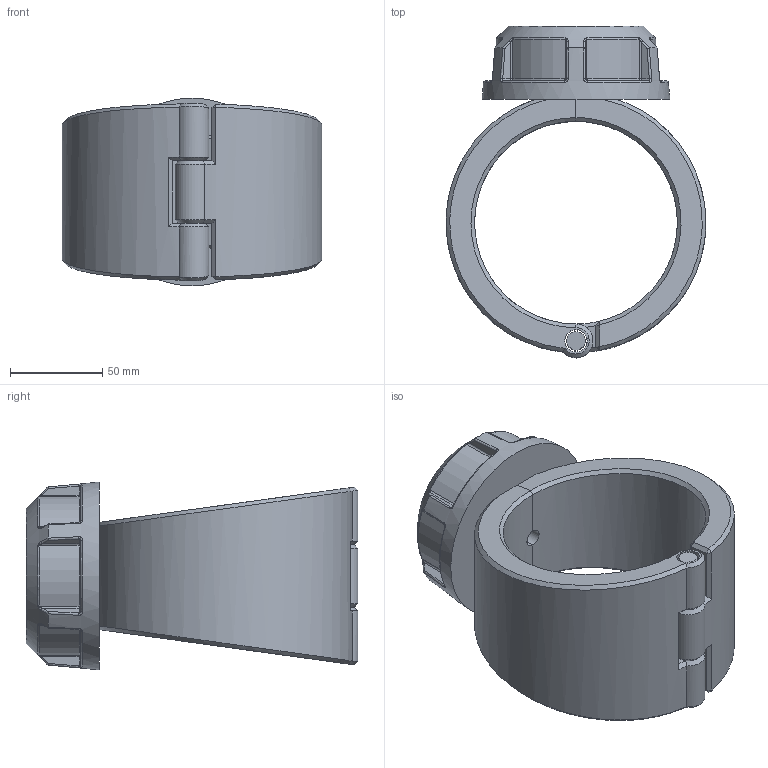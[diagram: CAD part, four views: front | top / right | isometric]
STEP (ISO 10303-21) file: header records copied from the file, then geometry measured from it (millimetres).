
FILE_DESCRIPTION(/* description */ ('Plassadle Threaded 110x1/2'''''),/* implementation_level */ '2;1');
FILE_NAME(/* name */ 'C:\Users\comp2\Dropbox\99-16-3568-Processing\Mechanical Fittings\16300\stp\163000110005.stp',/* time_stamp */ '2022-02-03T11:47:37+00:00',/* author */ ('comp2'),/* organization */ (''),/* preprocessor_version */ 'ST-DEVELOPER v17.2',/* originating_system */ 'Autodesk Inventor 2019',/* authorisation */ '');
FILE_SCHEMA (('AUTOMOTIVE_DESIGN { 1 0 10303 214 3 1 1 }'));
Length unit declared in the file: millimetre
Products named in the file (1): 163000110005
Bounding box: 141 x 180 x 102 mm (x, y, z)
Volume: 700570.3 mm3; surface area: 110090.6 mm2
Topology: 4 solids, 4 shells, 203 faces, 486 edges, 293 vertices
Faces by surface type: bspline 58, plane 53, cylinder 47, torus 18, cone 15, sphere 12
Full cylindrical faces by diameter (mm): 9.316 x1, 10.12 x1, 12.12 x3, 15.836 x1, 18.631 x1, 27.947 x1
Entity records: 8247 total; most frequent: CARTESIAN_POINT 3900, ORIENTED_EDGE 972, DIRECTION 781, EDGE_CURVE 486, AXIS2_PLACEMENT_3D 330, VERTEX_POINT 293, EDGE_LOOP 213, FACE_OUTER_BOUND 203
